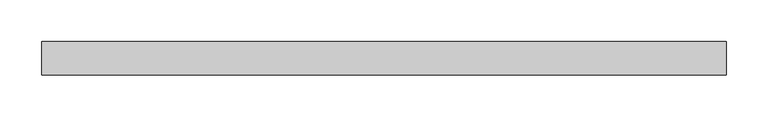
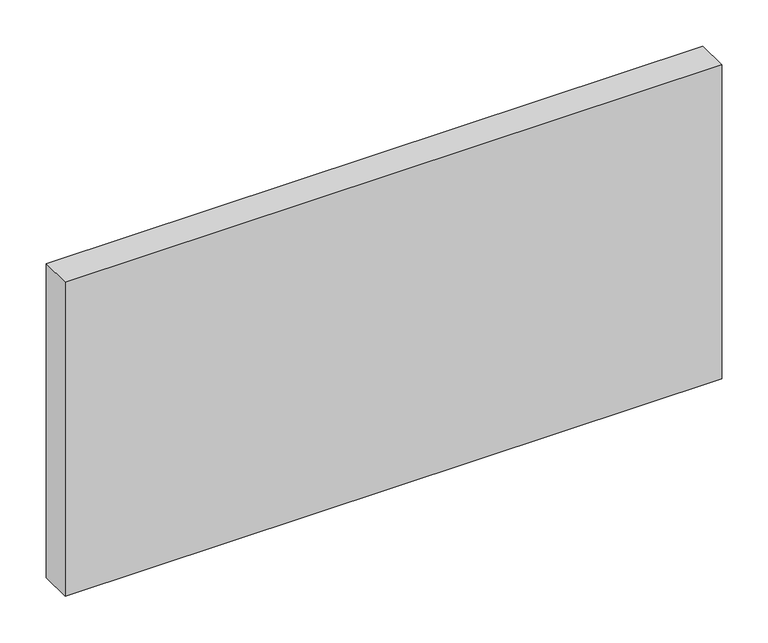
"""IFC4 building model written with IfcOpenShell, lengths in millimetres: plate geometry, Panneau système vide : Epaiss. 4cm."""

import ifcopenshell
import ifcopenshell.guid

model = None  # the IFC model being written
_history = None  # IfcOwnerHistory: only IFC2X3 demands one
_inside = {}  # id of a spatial element -> (the spatial element, [elements in it])
_under = {}  # id of a project, library or spatial element -> (it, [spatial elements below it])
_declared = {}  # id of a project -> (the project, [libraries it declares])
_typed = {}  # id of a type object -> (the type object, [elements of that type])
_made_of = {}  # id of a material, layer set ... -> (it, [elements and type objects made of it])


def new_model(schema):
    """Start an empty IFC model of exactly this schema.

    Asked for "IFC4X3", IfcOpenShell would pick the latest addendum, in which some entities
    have other attributes; the version numbers below select the first issue.
    IFC2X3 requires an IfcOwnerHistory on every rooted entity: one is made here for all.
    """
    global model, _history
    if schema == "IFC4X3":
        model = ifcopenshell.file(schema_version=(4, 3, 0, 0))
    else:
        model = ifcopenshell.file(schema=schema)
    _inside.clear()
    _under.clear()
    _declared.clear()
    _typed.clear()
    _made_of.clear()
    _history = None
    if model.schema == "IFC2X3":
        org = make("IfcOrganization", Name="unknown")
        user = make(
            "IfcPersonAndOrganization",
            ThePerson=make("IfcPerson", FamilyName="unknown"),
            TheOrganization=org,
        )
        app = make(
            "IfcApplication",
            ApplicationDeveloper=org,
            Version="unknown",
            ApplicationFullName="unknown",
            ApplicationIdentifier="unknown",
        )
        _history = make(
            "IfcOwnerHistory",
            OwningUser=user,
            OwningApplication=app,
            ChangeAction="ADDED",
            CreationDate=0,
        )
    return model


def make(cls, **values):
    """One entity of the class cls with the attributes given. An attribute that is None is left unset."""
    return model.create_entity(
        cls, **{name: value for name, value in values.items() if value is not None}
    )


def rooted(cls, **values):
    """An entity with a GlobalId (a new one), such as an element, a storey or a relation."""
    return make(cls, GlobalId=ifcopenshell.guid.new(), OwnerHistory=_history, **values)


def si_unit(unit_type, name, prefix=None):
    """IfcSIUnit, for example si_unit("LENGTHUNIT", "METRE", prefix="MILLI")."""
    return make("IfcSIUnit", UnitType=unit_type, Prefix=prefix, Name=name)


def assignment(units):
    """IfcUnitAssignment: the units of a project."""
    return None if units is None else make("IfcUnitAssignment", Units=units)


def point(xyz):
    """IfcCartesianPoint."""
    return None if xyz is None else make("IfcCartesianPoint", Coordinates=xyz)


def direction(xyz):
    """IfcDirection."""
    return None if xyz is None else make("IfcDirection", DirectionRatios=xyz)


def frame(location, z_axis=None, x_axis=None):
    """IfcAxis2Placement3D, a coordinate frame: its origin and axes. An axis left out is left unset."""
    return make(
        "IfcAxis2Placement3D",
        Location=point(location),
        Axis=direction(z_axis),
        RefDirection=direction(x_axis),
    )


def origin():
    """The frame at (0, 0, 0) with its axes left unset."""
    return frame((0.0, 0.0, 0.0))


def origin_with_axes():
    """The frame at (0, 0, 0) with the z axis (0, 0, 1) and the x axis (1, 0, 0) written out."""
    return frame((0.0, 0.0, 0.0), z_axis=(0.0, 0.0, 1.0), x_axis=(1.0, 0.0, 0.0))


def place(relative_to, where):
    """IfcLocalPlacement: puts the frame where relative to a parent placement (None: the world)."""
    return make(
        "IfcLocalPlacement", PlacementRelTo=relative_to, RelativePlacement=where
    )


def context(
    kind, dimensions, precision=None, world=None, true_north=None, identifier=None
):
    """IfcGeometricRepresentationContext, for example the 3D "Model" context."""
    return make(
        "IfcGeometricRepresentationContext",
        ContextIdentifier=identifier,
        ContextType=kind,
        CoordinateSpaceDimension=dimensions,
        Precision=precision,
        WorldCoordinateSystem=world,
        TrueNorth=true_north,
    )


def project(units=None, contexts=None):
    """IfcProject with its units and contexts."""
    return rooted(
        "IfcProject",
        Name="project",
        RepresentationContexts=contexts,
        UnitsInContext=assignment(units),
    )


def spatial(cls, under=None, at=None, **own):
    """A site, building, storey or space (cls), placed at a placement, below another one or the project."""
    s = rooted(cls, ObjectPlacement=at, **own)
    if under is not None:
        _under.setdefault(under.id(), (under, []))[1].append(s)
    return s


def polyline(points):
    """IfcPolyline through the points."""
    return make("IfcPolyline", Points=[point(p) for p in points])


def outline(outer, holes=None, kind="AREA"):
    """IfcArbitraryClosedProfileDef: a profile drawn as a closed curve; with holes, ...WithVoids."""
    if holes is None:
        return make("IfcArbitraryClosedProfileDef", ProfileType=kind, OuterCurve=outer)
    return make(
        "IfcArbitraryProfileDefWithVoids",
        ProfileType=kind,
        OuterCurve=outer,
        InnerCurves=holes,
    )


def extrude(swept, where, along, depth):
    """IfcExtrudedAreaSolid: the profile swept, set in the frame where, extruded along a direction by depth."""
    return make(
        "IfcExtrudedAreaSolid",
        SweptArea=swept,
        Position=where,
        ExtrudedDirection=direction(along),
        Depth=depth,
    )


def shape(context_of_items, identifier, shape_type, items):
    """IfcShapeRepresentation: the items that make up one representation, for example the "Body"."""
    return make(
        "IfcShapeRepresentation",
        ContextOfItems=context_of_items,
        RepresentationIdentifier=identifier,
        RepresentationType=shape_type,
        Items=items,
    )


def source(mapping_origin, context_of_items, identifier, shape_type, items):
    """IfcRepresentationMap: a shape defined once, which mapped items show again and again."""
    return make(
        "IfcRepresentationMap",
        MappingOrigin=mapping_origin,
        MappedRepresentation=shape(context_of_items, identifier, shape_type, items),
    )


def transform(
    local_origin,
    x_axis=None,
    y_axis=None,
    z_axis=None,
    scale=None,
    scale2=None,
    scale3=None,
    uniform=True,
):
    """IfcCartesianTransformationOperator3D, or its non-uniform kind. x_axis, y_axis, z_axis: its Axis1, 2, 3."""
    if uniform:
        return make(
            "IfcCartesianTransformationOperator3D",
            Axis1=direction(x_axis),
            Axis2=direction(y_axis),
            LocalOrigin=point(local_origin),
            Scale=scale,
            Axis3=direction(z_axis),
        )
    return make(
        "IfcCartesianTransformationOperator3DnonUniform",
        Axis1=direction(x_axis),
        Axis2=direction(y_axis),
        LocalOrigin=point(local_origin),
        Scale=scale,
        Axis3=direction(z_axis),
        Scale2=scale2,
        Scale3=scale3,
    )


def mapped(mapping_source, mapping_target):
    """IfcMappedItem: shows the shape of a source again, moved by a transform."""
    return make(
        "IfcMappedItem", MappingSource=mapping_source, MappingTarget=mapping_target
    )


def made_of(thing, what):
    """Note that an element or type object is made of a material, layer set ...; save() writes the relation."""
    if what is not None:
        _made_of.setdefault(what.id(), (what, []))[1].append(thing)
    return thing


def element(
    cls,
    number,
    at=None,
    inside=None,
    cuts=None,
    type_object=None,
    material=None,
    context=None,
    identifier="Body",
    shape_type=None,
    held_by="IfcProductDefinitionShape",
    body=None,
    shapes=None,
    **own,
):
    """One element of the class cls, such as IfcWall. Its Tag is "e" and its number.

    at: its placement. inside: the storey or other place that contains it. cuts: it is an
    opening in that element (IfcRelVoidsElement). A single representation is given by context,
    identifier, shape_type and body (its items); several are given by shapes. held_by: the class
    of the entity that holds the representations. save() writes the other relations.
    """
    e = rooted(cls, Tag="e%d" % number, ObjectPlacement=at, **own)
    if body is not None:
        shapes = [shape(context, identifier, shape_type, body)]
    if shapes is not None:
        e.Representation = make(held_by, Representations=shapes)
    if inside is not None:
        _inside.setdefault(inside.id(), (inside, []))[1].append(e)
    if cuts is not None:
        rooted(
            "IfcRelVoidsElement", RelatingBuildingElement=cuts, RelatedOpeningElement=e
        )
    if type_object is not None:
        _typed.setdefault(type_object.id(), (type_object, []))[1].append(e)
    return made_of(e, material)


def aggregate(whole, parts):
    """IfcRelAggregates: a whole, such as a stair, and the parts it consists of."""
    return rooted("IfcRelAggregates", RelatingObject=whole, RelatedObjects=parts)


def save(model, path):
    """Write the relations noted so far, then the file.

    IfcRelAggregates (storeys below a building ...), IfcRelContainedInSpatialStructure (elements
    in a storey), IfcRelDefinesByType, IfcRelAssociatesMaterial and IfcRelDeclares: one each for
    every whole, place, type object, material and project.
    """
    for whole, parts in _under.values():
        aggregate(whole, parts)
    for where, things in _inside.values():
        rooted(
            "IfcRelContainedInSpatialStructure",
            RelatedElements=things,
            RelatingStructure=where,
        )
    for kind, things in _typed.values():
        rooted("IfcRelDefinesByType", RelatedObjects=things, RelatingType=kind)
    for what, things in _made_of.values():
        rooted("IfcRelAssociatesMaterial", RelatedObjects=things, RelatingMaterial=what)
    for by, libraries in _declared.values():
        rooted("IfcRelDeclares", RelatingContext=by, RelatedDefinitions=libraries)
    model.write(path)


def plate_20719130(model_context):
    return source(origin(), model_context, "Body", "SweptSolid", [
        extrude(outline(polyline([(408.15, -20.0), (-408.15, -20.0), (-408.15, 20.0), (408.15, 20.0), (408.15, -20.0)])), origin_with_axes(), (0.0, 0.0, 1.0), 412.8823679),
    ])


if __name__ == "__main__":
    model = new_model("IFC4")
    model_context = context("Model", 3, world=origin())
    ifc_project = project(units=[si_unit("LENGTHUNIT", "METRE", prefix="MILLI")], contexts=[model_context])
    site = spatial("IfcSite", under=ifc_project)
    building = spatial("IfcBuilding", under=site)
    placement = place(None, origin())
    plate_shape = plate_20719130(model_context)
    element("IfcPlate", 1, ObjectType="Panneau système vide : Epaiss. 4cm", at=placement, inside=building, context=model_context, shape_type="MappedRepresentation", body=[
        mapped(plate_shape, transform((0.0, 0.0, 0.0), x_axis=(1.0, 0.0, 0.0), y_axis=(0.0, 1.0, 0.0), z_axis=(0.0, 0.0, 1.0))),
    ])
    save(model, "model.ifc")
